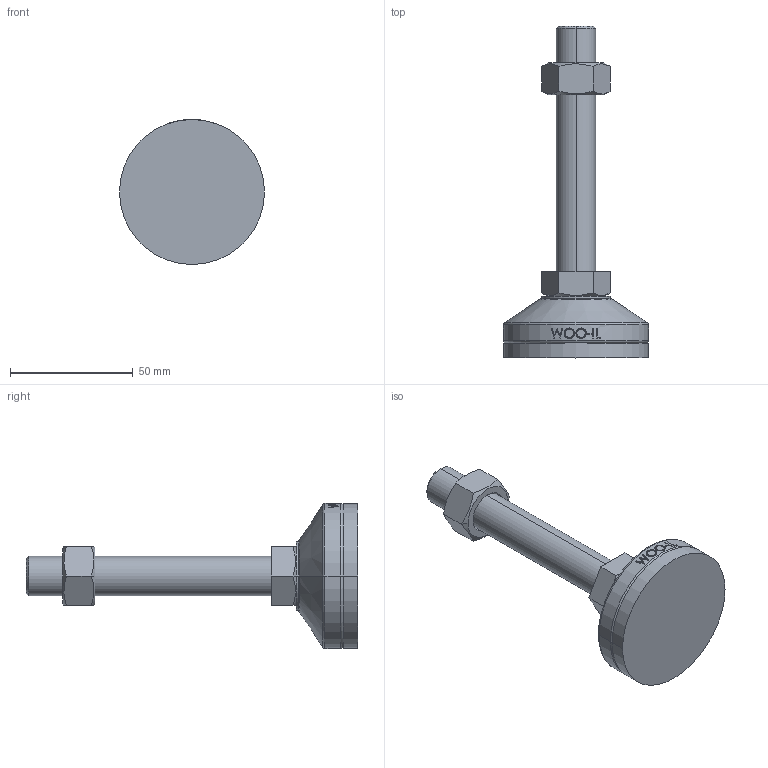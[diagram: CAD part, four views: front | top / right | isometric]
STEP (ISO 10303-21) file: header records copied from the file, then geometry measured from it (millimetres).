
FILE_DESCRIPTION (( 'STEP AP214' ), '1' );
FILE_NAME ('MFR59-M16-100.step', '2021-01-15T08:01:37', ( '' ), ( '' ), 'SwSTEP 2.0', 'SolidWorks 2019', '' );
FILE_SCHEMA (( 'AUTOMOTIVE_DESIGN' ));
Length unit declared in the file: millimetre
Products named in the file (2): MFR59-M16-100
Bounding box: 59 x 135 x 59 mm (x, y, z)
Volume: 83438.9 mm3; surface area: 22944.4 mm2
Topology: 4 solids, 4 shells, 103 faces, 235 edges, 150 vertices
Faces by surface type: plane 49, cylinder 18, bspline 16, cone 14, torus 6
Entity records: 4363 total; most frequent: CARTESIAN_POINT 2090, ORIENTED_EDGE 470, DIRECTION 417, EDGE_CURVE 235, AXIS2_PLACEMENT_3D 159, VERTEX_POINT 150, EDGE_LOOP 115, ADVANCED_FACE 103
